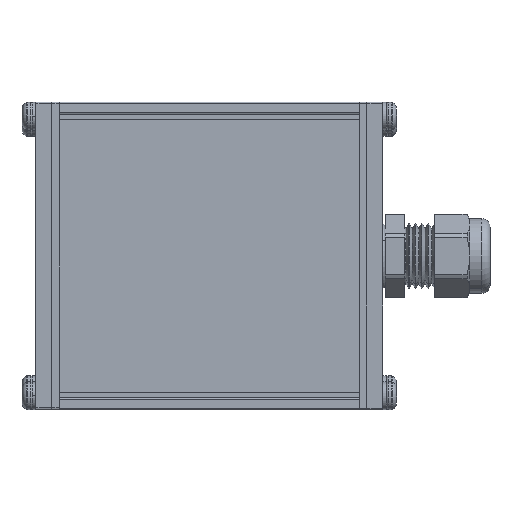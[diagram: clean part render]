
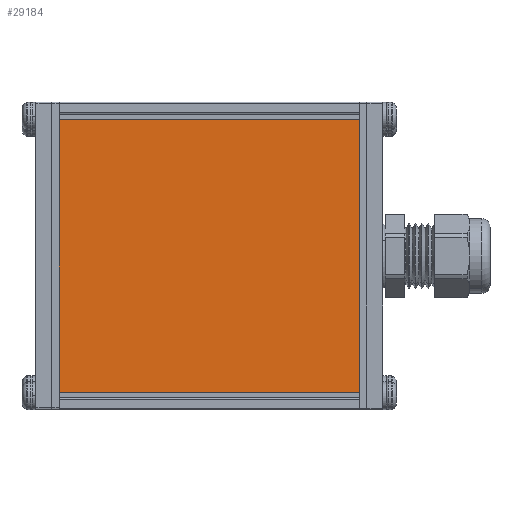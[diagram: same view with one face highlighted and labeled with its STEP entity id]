
A CAD part, top view. The second image highlights one B-rep face of the part: STEP entity #29184.
In plain terms, the highlighted planar face has unit normal (0, 0, 1) as drawn and (0, 1, 0) by its records, which use the part's own axes.
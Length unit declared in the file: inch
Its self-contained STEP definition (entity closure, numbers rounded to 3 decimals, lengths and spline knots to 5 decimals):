
#543 = DIRECTION ( 'NONE',  ( 0., 0., -1. ) ) ;
#3081 = ORIENTED_EDGE ( 'NONE', *, *, #11000, .F. ) ;
#3514 = CARTESIAN_POINT ( 'NONE',  ( 1.1875, 0.105, -1.0805 ) ) ;
#5097 = PLANE ( 'NONE',  #21374 ) ;
#5589 = ORIENTED_EDGE ( 'NONE', *, *, #8320, .T. ) ;
#5958 = LINE ( 'NONE', #28617, #14568 ) ;
#6408 = CARTESIAN_POINT ( 'NONE',  ( 1.1875, 0.105, 1.0805 ) ) ;
#6410 = CARTESIAN_POINT ( 'NONE',  ( -1.1875, 0.105, 1.0805 ) ) ;
#6784 = CARTESIAN_POINT ( 'NONE',  ( 1.1875, 0.105, 1.0805 ) ) ;
#7099 = VERTEX_POINT ( 'NONE', #6784 ) ;
#7975 = LINE ( 'NONE', #6408, #17988 ) ;
#8320 = EDGE_CURVE ( 'NONE', #14981, #14192, #25610, .T. ) ;
#8731 = DIRECTION ( 'NONE',  ( 0., 0., 1. ) ) ;
#9600 = ORIENTED_EDGE ( 'NONE', *, *, #11908, .T. ) ;
#10486 = CARTESIAN_POINT ( 'NONE',  ( -1.1875, 0.105, -1.0805 ) ) ;
#11000 = EDGE_CURVE ( 'NONE', #7099, #14192, #5958, .T. ) ;
#11474 = ORIENTED_EDGE ( 'NONE', *, *, #14500, .F. ) ;
#11908 = EDGE_CURVE ( 'NONE', #20775, #14981, #18831, .T. ) ;
#12397 = VECTOR ( 'NONE', #25863, 39.37008 ) ;
#14192 = VERTEX_POINT ( 'NONE', #23808 ) ;
#14500 = EDGE_CURVE ( 'NONE', #20775, #7099, #7975, .T. ) ;
#14568 = VECTOR ( 'NONE', #17271, 39.37008 ) ;
#14981 = VERTEX_POINT ( 'NONE', #10486 ) ;
#17271 = DIRECTION ( 'NONE',  ( -1., 0., 0. ) ) ;
#17988 = VECTOR ( 'NONE', #22434, 39.37008 ) ;
#18831 = LINE ( 'NONE', #18996, #12397 ) ;
#18996 = CARTESIAN_POINT ( 'NONE',  ( 1.1875, 0.105, -1.0805 ) ) ;
#19357 = FACE_OUTER_BOUND ( 'NONE', #21853, .T. ) ;
#20775 = VERTEX_POINT ( 'NONE', #3514 ) ;
#20911 = VECTOR ( 'NONE', #8731, 39.37008 ) ;
#21117 = DIRECTION ( 'NONE',  ( 0., -1., 0. ) ) ;
#21374 = AXIS2_PLACEMENT_3D ( 'NONE', #26045, #21117, #543 ) ;
#21853 = EDGE_LOOP ( 'NONE', ( #5589, #3081, #11474, #9600 ) ) ;
#22434 = DIRECTION ( 'NONE',  ( 0., 0., 1. ) ) ;
#23808 = CARTESIAN_POINT ( 'NONE',  ( -1.1875, 0.105, 1.0805 ) ) ;
#25610 = LINE ( 'NONE', #6410, #20911 ) ;
#25863 = DIRECTION ( 'NONE',  ( -1., 0., 0. ) ) ;
#26045 = CARTESIAN_POINT ( 'NONE',  ( 1.1875, 0.105, 1.0805 ) ) ;
#28617 = CARTESIAN_POINT ( 'NONE',  ( 1.1875, 0.105, 1.0805 ) ) ;
#29184 = ADVANCED_FACE ( 'NONE', ( #19357 ), #5097, .F. ) ;
